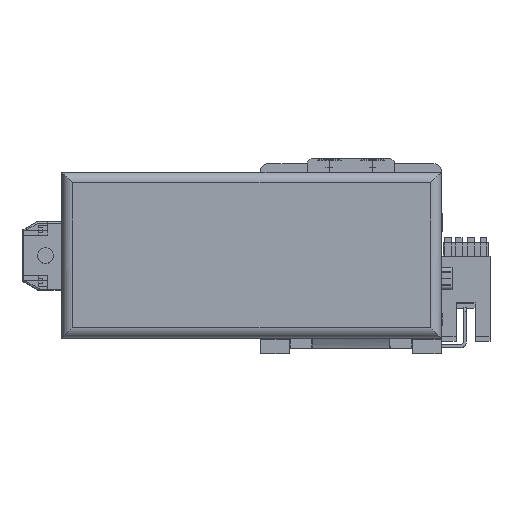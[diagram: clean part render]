
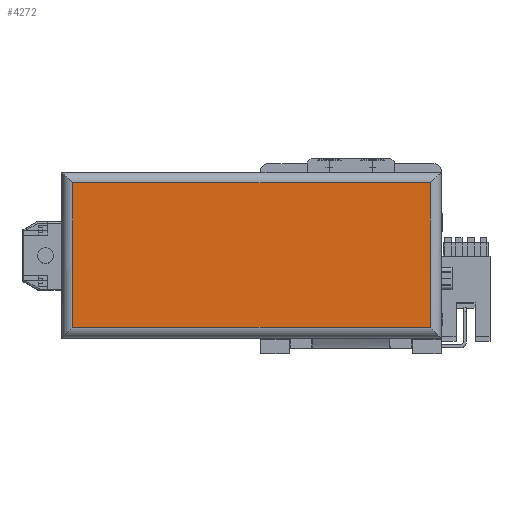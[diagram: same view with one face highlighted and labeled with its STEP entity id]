
A CAD part, top view. The second image highlights one B-rep face of the part: STEP entity #4272.
In plain terms, the highlighted planar face has unit normal (0, 0, 1).
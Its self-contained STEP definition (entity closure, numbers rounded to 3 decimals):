
#1202 = LINE ( 'NONE', #19790, #19353 ) ;
#2458 = EDGE_LOOP ( 'NONE', ( #37733, #37242, #35671, #34138 ) ) ;
#4272 = ADVANCED_FACE ( 'NONE', ( #14491 ), #42893, .F. ) ;
#4339 = DIRECTION ( 'NONE',  ( 1., 0., 0. ) ) ;
#6090 = CARTESIAN_POINT ( 'NONE',  ( 49.5, -20., 41. ) ) ;
#8419 = AXIS2_PLACEMENT_3D ( 'NONE', #43950, #44689, #42580 ) ;
#9137 = LINE ( 'NONE', #32491, #47831 ) ;
#9714 = VECTOR ( 'NONE', #43492, 1000. ) ;
#9871 = CARTESIAN_POINT ( 'NONE',  ( -49.5, 20., 41. ) ) ;
#11824 = EDGE_CURVE ( 'NONE', #30488, #44734, #1202, .T. ) ;
#11957 = EDGE_CURVE ( 'NONE', #44734, #18886, #43199, .T. ) ;
#12125 = EDGE_CURVE ( 'NONE', #18886, #18607, #9137, .T. ) ;
#12264 = EDGE_CURVE ( 'NONE', #18607, #30488, #39631, .T. ) ;
#14491 = FACE_OUTER_BOUND ( 'NONE', #2458, .T. ) ;
#16265 = CARTESIAN_POINT ( 'NONE',  ( 49.5, 20., 41. ) ) ;
#18607 = VERTEX_POINT ( 'NONE', #6090 ) ;
#18886 = VERTEX_POINT ( 'NONE', #46308 ) ;
#19353 = VECTOR ( 'NONE', #19932, 1000. ) ;
#19790 = CARTESIAN_POINT ( 'NONE',  ( 0., 20., 41. ) ) ;
#19932 = DIRECTION ( 'NONE',  ( -1., 0., 0. ) ) ;
#22225 = VECTOR ( 'NONE', #47065, 1000. ) ;
#30488 = VERTEX_POINT ( 'NONE', #16265 ) ;
#32491 = CARTESIAN_POINT ( 'NONE',  ( 0., -20., 41. ) ) ;
#34138 = ORIENTED_EDGE ( 'NONE', *, *, #12264, .T. ) ;
#35671 = ORIENTED_EDGE ( 'NONE', *, *, #12125, .T. ) ;
#37242 = ORIENTED_EDGE ( 'NONE', *, *, #11957, .T. ) ;
#37733 = ORIENTED_EDGE ( 'NONE', *, *, #11824, .T. ) ;
#39631 = LINE ( 'NONE', #41023, #9714 ) ;
#41023 = CARTESIAN_POINT ( 'NONE',  ( 49.5, 0., 41. ) ) ;
#42580 = DIRECTION ( 'NONE',  ( -1., 0., 0. ) ) ;
#42893 = PLANE ( 'NONE',  #8419 ) ;
#43199 = LINE ( 'NONE', #47690, #22225 ) ;
#43492 = DIRECTION ( 'NONE',  ( 0., 1., 0. ) ) ;
#43950 = CARTESIAN_POINT ( 'NONE',  ( 0., 0., 41. ) ) ;
#44689 = DIRECTION ( 'NONE',  ( 0., 0., -1. ) ) ;
#44734 = VERTEX_POINT ( 'NONE', #9871 ) ;
#46308 = CARTESIAN_POINT ( 'NONE',  ( -49.5, -20., 41. ) ) ;
#47065 = DIRECTION ( 'NONE',  ( 0., -1., 0. ) ) ;
#47690 = CARTESIAN_POINT ( 'NONE',  ( -49.5, 0., 41. ) ) ;
#47831 = VECTOR ( 'NONE', #4339, 1000. ) ;
